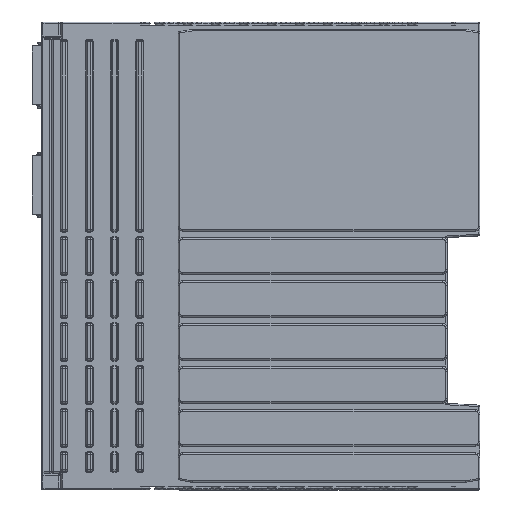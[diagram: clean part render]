
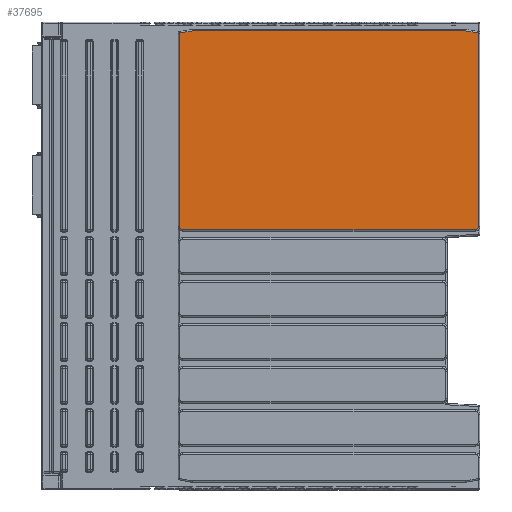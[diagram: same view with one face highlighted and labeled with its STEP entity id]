
A CAD part, top view. The second image highlights one B-rep face of the part: STEP entity #37695.
In plain terms, the highlighted planar face has unit normal (0, 0, 1).
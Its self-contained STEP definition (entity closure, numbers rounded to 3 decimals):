
#4106=FACE_OUTER_BOUND('',#6515,.T.);
#6515=EDGE_LOOP('',(#33924,#33925,#33926,#33927,#33928,#33929,#33930,#33931));
#8838=CIRCLE('',#42419,0.7);
#8842=CIRCLE('',#42425,0.7);
#11806=LINE('',#65873,#14787);
#11807=LINE('',#65879,#14788);
#11808=LINE('',#65884,#14789);
#11809=LINE('',#65890,#14790);
#11811=LINE('',#65903,#14792);
#11812=LINE('',#65911,#14793);
#14787=VECTOR('',#54737,10.);
#14788=VECTOR('',#54746,10.);
#14789=VECTOR('',#54753,10.);
#14790=VECTOR('',#54762,10.);
#14792=VECTOR('',#54778,10.);
#14793=VECTOR('',#54791,10.);
#17903=VERTEX_POINT('',#65870);
#17904=VERTEX_POINT('',#65872);
#17905=VERTEX_POINT('',#65876);
#17906=VERTEX_POINT('',#65883);
#17907=VERTEX_POINT('',#65889);
#17908=VERTEX_POINT('',#65893);
#17910=VERTEX_POINT('',#65899);
#17912=VERTEX_POINT('',#65905);
#23264=EDGE_CURVE('',#17903,#17904,#11806,.T.);
#23268=EDGE_CURVE('',#17904,#17905,#11807,.T.);
#23270=EDGE_CURVE('',#17905,#17906,#11808,.T.);
#23273=EDGE_CURVE('',#17906,#17907,#11809,.T.);
#23277=EDGE_CURVE('',#17907,#17908,#8838,.T.);
#23280=EDGE_CURVE('',#17908,#17910,#11811,.T.);
#23283=EDGE_CURVE('',#17910,#17912,#8842,.T.);
#23285=EDGE_CURVE('',#17912,#17903,#11812,.T.);
#33924=ORIENTED_EDGE('',*,*,#23264,.F.);
#33925=ORIENTED_EDGE('',*,*,#23285,.F.);
#33926=ORIENTED_EDGE('',*,*,#23283,.F.);
#33927=ORIENTED_EDGE('',*,*,#23280,.F.);
#33928=ORIENTED_EDGE('',*,*,#23277,.F.);
#33929=ORIENTED_EDGE('',*,*,#23273,.F.);
#33930=ORIENTED_EDGE('',*,*,#23270,.F.);
#33931=ORIENTED_EDGE('',*,*,#23268,.F.);
#34860=PLANE('',#42430);
#37695=ADVANCED_FACE('',(#4106),#34860,.T.);
#42419=AXIS2_PLACEMENT_3D('',#65897,#54771,#54772);
#42425=AXIS2_PLACEMENT_3D('',#65908,#54785,#54786);
#42430=AXIS2_PLACEMENT_3D('',#65914,#54796,#54797);
#54737=DIRECTION('',(0.985,0.174,0.));
#54746=DIRECTION('',(1.,0.,0.));
#54753=DIRECTION('',(0.985,-0.174,0.));
#54762=DIRECTION('',(0.,-1.,0.));
#54771=DIRECTION('center_axis',(0.,0.,-1.));
#54772=DIRECTION('ref_axis',(0.707,-0.707,0.));
#54778=DIRECTION('',(-1.,0.,0.));
#54785=DIRECTION('center_axis',(0.,0.,-1.));
#54786=DIRECTION('ref_axis',(-0.707,-0.707,0.));
#54791=DIRECTION('',(0.,1.,0.));
#54796=DIRECTION('center_axis',(0.,0.,1.));
#54797=DIRECTION('ref_axis',(0.,-1.,0.));
#65870=CARTESIAN_POINT('',(-57.2,61.419,29.));
#65872=CARTESIAN_POINT('',(-54.474,61.9,29.));
#65873=CARTESIAN_POINT('',(-28.77,66.432,29.));
#65876=CARTESIAN_POINT('',(3.974,61.9,29.));
#65879=CARTESIAN_POINT('',(0.,61.9,29.));
#65883=CARTESIAN_POINT('',(6.7,61.419,29.));
#65884=CARTESIAN_POINT('',(2.758,62.114,29.));
#65889=CARTESIAN_POINT('',(6.7,20.1,29.));
#65890=CARTESIAN_POINT('',(6.7,38.,29.));
#65893=CARTESIAN_POINT('',(6.,19.4,29.));
#65897=CARTESIAN_POINT('Origin',(6.,20.1,29.));
#65899=CARTESIAN_POINT('',(-56.5,19.4,29.));
#65903=CARTESIAN_POINT('',(-28.75,19.4,29.));
#65905=CARTESIAN_POINT('',(-57.2,20.1,29.));
#65908=CARTESIAN_POINT('Origin',(-56.5,20.1,29.));
#65911=CARTESIAN_POINT('',(-57.2,38.,29.));
#65914=CARTESIAN_POINT('Origin',(0.,62.2,29.));
